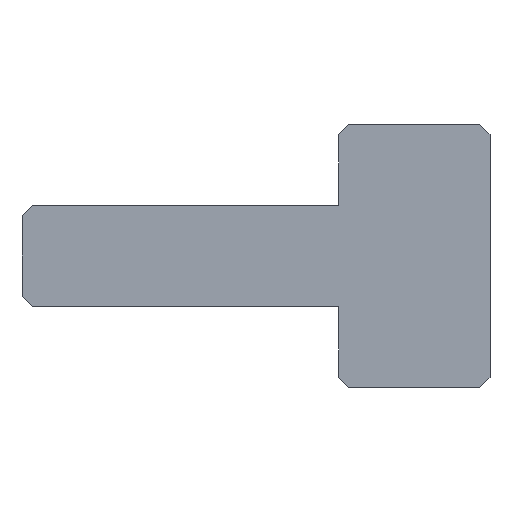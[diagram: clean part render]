
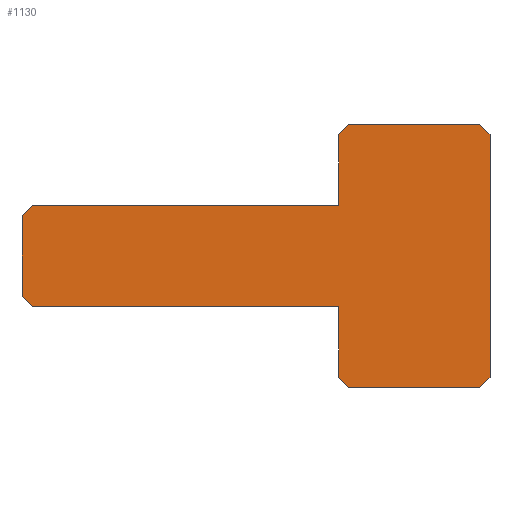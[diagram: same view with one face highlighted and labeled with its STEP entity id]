
A CAD part, front view. The second image highlights one B-rep face of the part: STEP entity #1130.
In plain terms, the highlighted planar face has unit normal (0, -1, 0).
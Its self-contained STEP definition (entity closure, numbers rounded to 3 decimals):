
#1 = DIRECTION ( 'NONE',  ( 1., 0., 0. ) ) ;
#28 = LINE ( 'NONE', #393, #56 ) ;
#40 = CARTESIAN_POINT ( 'NONE',  ( 0., 0., -8. ) ) ;
#41 = LINE ( 'NONE', #1506, #565 ) ;
#56 = VECTOR ( 'NONE', #1538, 1000. ) ;
#57 = ORIENTED_EDGE ( 'NONE', *, *, #254, .T. ) ;
#83 = CARTESIAN_POINT ( 'NONE',  ( 43.3, 0., 17. ) ) ;
#98 = VECTOR ( 'NONE', #2060, 1000. ) ;
#122 = CARTESIAN_POINT ( 'NONE',  ( 0., 0., 18. ) ) ;
#125 = ORIENTED_EDGE ( 'NONE', *, *, #2326, .F. ) ;
#158 = CARTESIAN_POINT ( 'NONE',  ( -3., 0., 1. ) ) ;
#174 = AXIS2_PLACEMENT_3D ( 'NONE', #2207, #2037, #1442 ) ;
#180 = CARTESIAN_POINT ( 'NONE',  ( 0., 0., 10. ) ) ;
#185 = DIRECTION ( 'NONE',  ( 0., 0., -1. ) ) ;
#223 = VERTEX_POINT ( 'NONE', #83 ) ;
#250 = VECTOR ( 'NONE', #745, 1000. ) ;
#254 = EDGE_CURVE ( 'NONE', #560, #824, #1228, .T. ) ;
#297 = ORIENTED_EDGE ( 'NONE', *, *, #1385, .F. ) ;
#324 = ORIENTED_EDGE ( 'NONE', *, *, #2167, .F. ) ;
#362 = VECTOR ( 'NONE', #2075, 1000. ) ;
#368 = LINE ( 'NONE', #1720, #957 ) ;
#372 = VERTEX_POINT ( 'NONE', #1876 ) ;
#393 = CARTESIAN_POINT ( 'NONE',  ( 28.313, 0., -7. ) ) ;
#437 = DIRECTION ( 'NONE',  ( 0., 0., 1. ) ) ;
#503 = CARTESIAN_POINT ( 'NONE',  ( 29.313, 0., 18. ) ) ;
#507 = VERTEX_POINT ( 'NONE', #1725 ) ;
#550 = EDGE_CURVE ( 'NONE', #560, #971, #804, .T. ) ;
#560 = VERTEX_POINT ( 'NONE', #1712 ) ;
#565 = VECTOR ( 'NONE', #951, 1000. ) ;
#641 = ORIENTED_EDGE ( 'NONE', *, *, #1259, .F. ) ;
#645 = LINE ( 'NONE', #1622, #1272 ) ;
#696 = DIRECTION ( 'NONE',  ( 1., 0., 0. ) ) ;
#698 = VERTEX_POINT ( 'NONE', #1014 ) ;
#710 = VERTEX_POINT ( 'NONE', #1649 ) ;
#713 = CARTESIAN_POINT ( 'NONE',  ( -2., 0., 0. ) ) ;
#730 = CARTESIAN_POINT ( 'NONE',  ( 29.313, 0., 18. ) ) ;
#738 = LINE ( 'NONE', #933, #2418 ) ;
#745 = DIRECTION ( 'NONE',  ( 0.707, 0., -0.707 ) ) ;
#764 = CARTESIAN_POINT ( 'NONE',  ( 28.313, 0., 0. ) ) ;
#804 = LINE ( 'NONE', #40, #98 ) ;
#824 = VERTEX_POINT ( 'NONE', #1736 ) ;
#836 = VERTEX_POINT ( 'NONE', #764 ) ;
#837 = CARTESIAN_POINT ( 'NONE',  ( 28.313, 0., 10. ) ) ;
#839 = VECTOR ( 'NONE', #1612, 1000. ) ;
#843 = DIRECTION ( 'NONE',  ( 0., 0., 1. ) ) ;
#844 = VECTOR ( 'NONE', #696, 1000. ) ;
#863 = EDGE_CURVE ( 'NONE', #710, #971, #28, .T. ) ;
#909 = ORIENTED_EDGE ( 'NONE', *, *, #1147, .T. ) ;
#933 = CARTESIAN_POINT ( 'NONE',  ( 0., 0., 0. ) ) ;
#951 = DIRECTION ( 'NONE',  ( -0.707, 0., -0.707 ) ) ;
#957 = VECTOR ( 'NONE', #185, 1000. ) ;
#971 = VERTEX_POINT ( 'NONE', #1776 ) ;
#987 = VERTEX_POINT ( 'NONE', #837 ) ;
#989 = VECTOR ( 'NONE', #843, 1000. ) ;
#1014 = CARTESIAN_POINT ( 'NONE',  ( -2., 0., 10. ) ) ;
#1061 = CARTESIAN_POINT ( 'NONE',  ( 42.3, 0., -8. ) ) ;
#1130 = ADVANCED_FACE ( 'NONE', ( #1466 ), #2220, .F. ) ;
#1144 = CARTESIAN_POINT ( 'NONE',  ( -3., 0., 9. ) ) ;
#1147 = EDGE_CURVE ( 'NONE', #1883, #372, #1630, .T. ) ;
#1189 = VECTOR ( 'NONE', #2420, 1000. ) ;
#1228 = LINE ( 'NONE', #1061, #839 ) ;
#1232 = EDGE_LOOP ( 'NONE', ( #1591, #57, #641, #1543, #297, #909, #2136, #125, #1262, #1235, #1763, #1319, #324, #2382 ) ) ;
#1235 = ORIENTED_EDGE ( 'NONE', *, *, #2100, .F. ) ;
#1259 = EDGE_CURVE ( 'NONE', #223, #824, #368, .T. ) ;
#1262 = ORIENTED_EDGE ( 'NONE', *, *, #1692, .T. ) ;
#1272 = VECTOR ( 'NONE', #2332, 1000. ) ;
#1278 = EDGE_CURVE ( 'NONE', #1935, #836, #738, .T. ) ;
#1295 = VERTEX_POINT ( 'NONE', #1144 ) ;
#1298 = LINE ( 'NONE', #180, #1189 ) ;
#1319 = ORIENTED_EDGE ( 'NONE', *, *, #1278, .T. ) ;
#1338 = VERTEX_POINT ( 'NONE', #2146 ) ;
#1385 = EDGE_CURVE ( 'NONE', #1883, #1338, #1830, .T. ) ;
#1397 = CARTESIAN_POINT ( 'NONE',  ( 28.313, 0., 10. ) ) ;
#1435 = VECTOR ( 'NONE', #437, 1000. ) ;
#1442 = DIRECTION ( 'NONE',  ( 0., 0., 1. ) ) ;
#1466 = FACE_OUTER_BOUND ( 'NONE', #1232, .T. ) ;
#1477 = DIRECTION ( 'NONE',  ( -0.707, 0., -0.707 ) ) ;
#1498 = EDGE_CURVE ( 'NONE', #507, #1935, #2430, .T. ) ;
#1506 = CARTESIAN_POINT ( 'NONE',  ( -3., 0., 9. ) ) ;
#1536 = LINE ( 'NONE', #1964, #1435 ) ;
#1538 = DIRECTION ( 'NONE',  ( 0.707, 0., -0.707 ) ) ;
#1543 = ORIENTED_EDGE ( 'NONE', *, *, #2192, .T. ) ;
#1591 = ORIENTED_EDGE ( 'NONE', *, *, #550, .F. ) ;
#1612 = DIRECTION ( 'NONE',  ( 0.707, 0., 0.707 ) ) ;
#1622 = CARTESIAN_POINT ( 'NONE',  ( 43.3, 0., 17. ) ) ;
#1630 = LINE ( 'NONE', #730, #1632 ) ;
#1632 = VECTOR ( 'NONE', #1477, 1000. ) ;
#1649 = CARTESIAN_POINT ( 'NONE',  ( 28.313, 0., -7. ) ) ;
#1692 = EDGE_CURVE ( 'NONE', #698, #1295, #41, .T. ) ;
#1712 = CARTESIAN_POINT ( 'NONE',  ( 42.3, 0., -8. ) ) ;
#1720 = CARTESIAN_POINT ( 'NONE',  ( 43.3, 0., 10. ) ) ;
#1725 = CARTESIAN_POINT ( 'NONE',  ( -3., 0., 1. ) ) ;
#1736 = CARTESIAN_POINT ( 'NONE',  ( 43.3, 0., -7. ) ) ;
#1763 = ORIENTED_EDGE ( 'NONE', *, *, #1498, .T. ) ;
#1776 = CARTESIAN_POINT ( 'NONE',  ( 29.313, 0., -8. ) ) ;
#1791 = LINE ( 'NONE', #1397, #989 ) ;
#1830 = LINE ( 'NONE', #122, #844 ) ;
#1851 = EDGE_CURVE ( 'NONE', #987, #372, #1536, .T. ) ;
#1876 = CARTESIAN_POINT ( 'NONE',  ( 28.313, 0., 17. ) ) ;
#1883 = VERTEX_POINT ( 'NONE', #503 ) ;
#1935 = VERTEX_POINT ( 'NONE', #713 ) ;
#1964 = CARTESIAN_POINT ( 'NONE',  ( 28.313, 0., 10. ) ) ;
#2037 = DIRECTION ( 'NONE',  ( 0., 1., 0. ) ) ;
#2060 = DIRECTION ( 'NONE',  ( -1., 0., 0. ) ) ;
#2075 = DIRECTION ( 'NONE',  ( 0., 0., 1. ) ) ;
#2100 = EDGE_CURVE ( 'NONE', #507, #1295, #2299, .T. ) ;
#2116 = CARTESIAN_POINT ( 'NONE',  ( -3., 0., 0. ) ) ;
#2136 = ORIENTED_EDGE ( 'NONE', *, *, #1851, .F. ) ;
#2146 = CARTESIAN_POINT ( 'NONE',  ( 42.3, 0., 18. ) ) ;
#2167 = EDGE_CURVE ( 'NONE', #710, #836, #1791, .T. ) ;
#2192 = EDGE_CURVE ( 'NONE', #223, #1338, #645, .T. ) ;
#2207 = CARTESIAN_POINT ( 'NONE',  ( 0., 0., 10. ) ) ;
#2220 = PLANE ( 'NONE',  #174 ) ;
#2299 = LINE ( 'NONE', #2116, #362 ) ;
#2326 = EDGE_CURVE ( 'NONE', #698, #987, #1298, .T. ) ;
#2332 = DIRECTION ( 'NONE',  ( -0.707, 0., 0.707 ) ) ;
#2382 = ORIENTED_EDGE ( 'NONE', *, *, #863, .T. ) ;
#2418 = VECTOR ( 'NONE', #1, 1000. ) ;
#2420 = DIRECTION ( 'NONE',  ( 1., 0., 0. ) ) ;
#2430 = LINE ( 'NONE', #158, #250 ) ;
